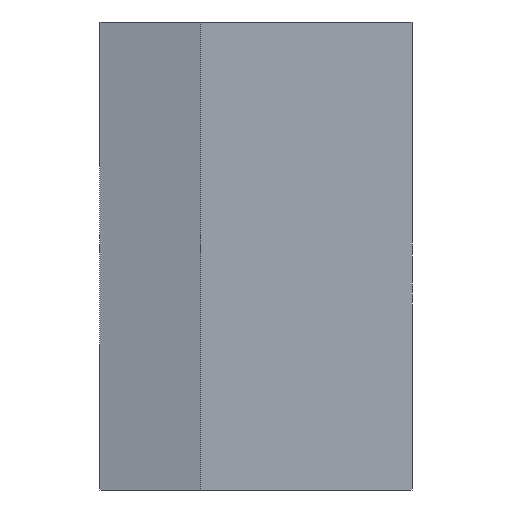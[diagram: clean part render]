
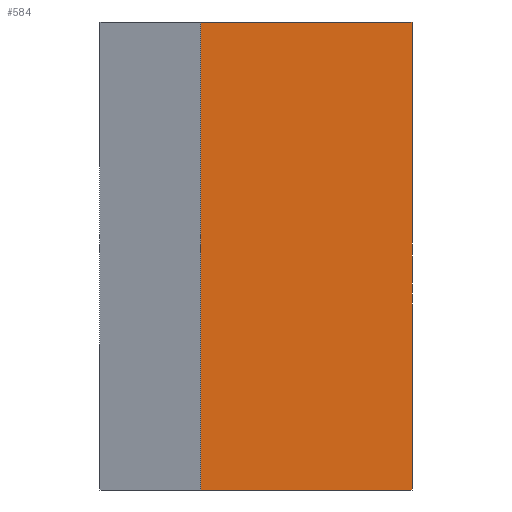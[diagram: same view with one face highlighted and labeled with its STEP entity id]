
A CAD part, left-side view. The second image highlights one B-rep face of the part: STEP entity #584.
In plain terms, the highlighted planar face has unit normal (-1, 0, 0).
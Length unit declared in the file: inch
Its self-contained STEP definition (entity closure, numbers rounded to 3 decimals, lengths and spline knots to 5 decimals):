
#8 = AXIS2_PLACEMENT_3D ( 'NONE', #3459, #8463, #3406 ) ;
#584 = ADVANCED_FACE ( 'NONE', ( #2496 ), #3362, .F. ) ;
#924 = LINE ( 'NONE', #6067, #2578 ) ;
#1188 = CARTESIAN_POINT ( 'NONE',  ( -11.78, -0.25, -0.375 ) ) ;
#1329 = VECTOR ( 'NONE', #6401, 39.37008 ) ;
#1527 = LINE ( 'NONE', #2390, #3824 ) ;
#1575 = VERTEX_POINT ( 'NONE', #9040 ) ;
#2227 = EDGE_CURVE ( 'NONE', #8407, #7878, #6678, .T. ) ;
#2390 = CARTESIAN_POINT ( 'NONE',  ( -11.78, 0.08837, -0.375 ) ) ;
#2496 = FACE_OUTER_BOUND ( 'NONE', #6526, .T. ) ;
#2578 = VECTOR ( 'NONE', #6782, 39.37008 ) ;
#2725 = CARTESIAN_POINT ( 'NONE',  ( -11.78, 0.08837, -0.375 ) ) ;
#2992 = CARTESIAN_POINT ( 'NONE',  ( -11.78, -0.25, 0.375 ) ) ;
#3362 = PLANE ( 'NONE',  #8 ) ;
#3381 = EDGE_CURVE ( 'NONE', #1575, #8407, #7135, .T. ) ;
#3406 = DIRECTION ( 'NONE',  ( 0., 1., 0. ) ) ;
#3459 = CARTESIAN_POINT ( 'NONE',  ( -11.78, -0.75, -0.50629 ) ) ;
#3824 = VECTOR ( 'NONE', #7297, 39.37008 ) ;
#4474 = DIRECTION ( 'NONE',  ( 0., -1., 0. ) ) ;
#5147 = CARTESIAN_POINT ( 'NONE',  ( -11.78, 0.25, 0.375 ) ) ;
#5643 = CARTESIAN_POINT ( 'NONE',  ( -11.78, -0.25, 0.375 ) ) ;
#5670 = ORIENTED_EDGE ( 'NONE', *, *, #2227, .F. ) ;
#5965 = EDGE_CURVE ( 'NONE', #8287, #1575, #1527, .T. ) ;
#6067 = CARTESIAN_POINT ( 'NONE',  ( -11.78, 0.25, -0.375 ) ) ;
#6401 = DIRECTION ( 'NONE',  ( 0., 0., -1. ) ) ;
#6435 = ORIENTED_EDGE ( 'NONE', *, *, #8204, .T. ) ;
#6526 = EDGE_LOOP ( 'NONE', ( #8189, #8599, #6435, #5670 ) ) ;
#6678 = LINE ( 'NONE', #2992, #1329 ) ;
#6782 = DIRECTION ( 'NONE',  ( 0., -1., 0. ) ) ;
#6902 = VECTOR ( 'NONE', #4474, 39.37008 ) ;
#7135 = LINE ( 'NONE', #5147, #6902 ) ;
#7297 = DIRECTION ( 'NONE',  ( 0., 0., 1. ) ) ;
#7878 = VERTEX_POINT ( 'NONE', #1188 ) ;
#8189 = ORIENTED_EDGE ( 'NONE', *, *, #3381, .F. ) ;
#8204 = EDGE_CURVE ( 'NONE', #8287, #7878, #924, .T. ) ;
#8287 = VERTEX_POINT ( 'NONE', #2725 ) ;
#8407 = VERTEX_POINT ( 'NONE', #5643 ) ;
#8463 = DIRECTION ( 'NONE',  ( 1., 0., 0. ) ) ;
#8599 = ORIENTED_EDGE ( 'NONE', *, *, #5965, .F. ) ;
#9040 = CARTESIAN_POINT ( 'NONE',  ( -11.78, 0.08837, 0.375 ) ) ;
